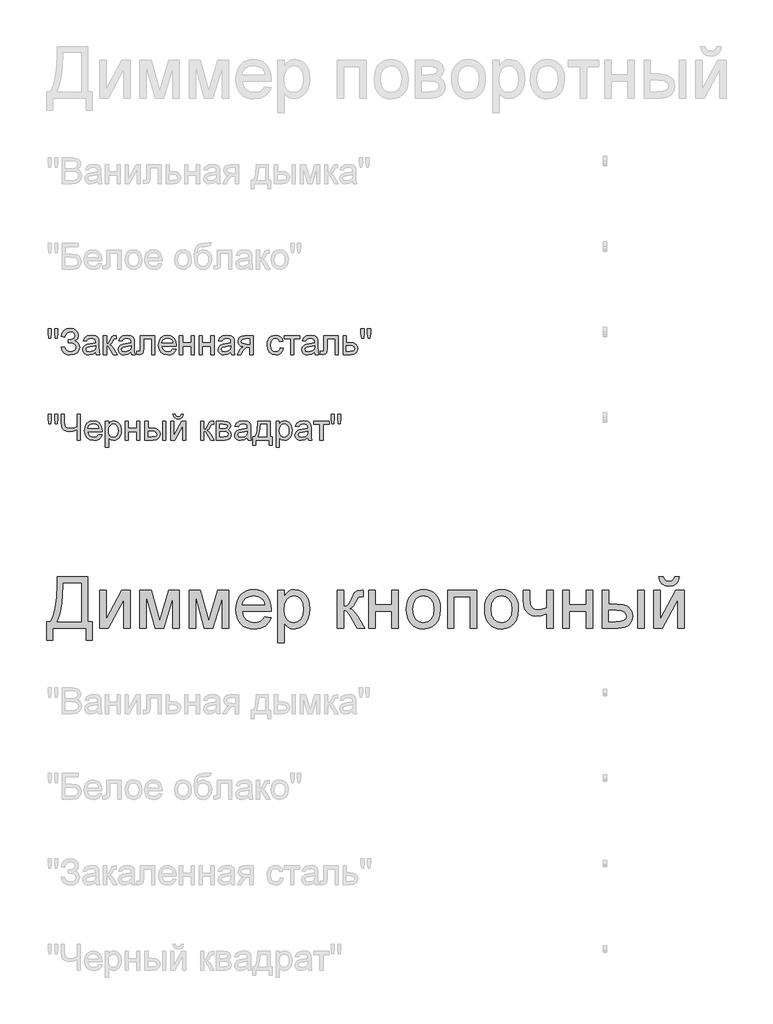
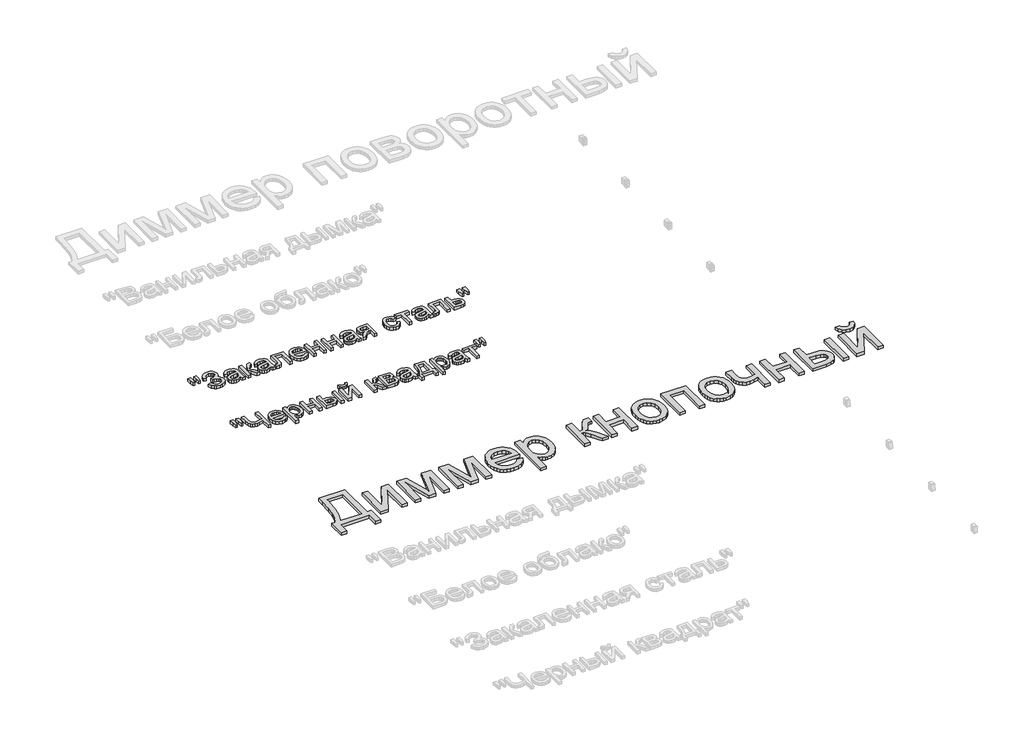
# One storey, part 34 of 168: 3 proxies.
"""IFC4 building model written with IfcOpenShell, lengths in millimetres."""

from ifc_helpers import new_model, si_unit, origin, origin_with_axes, place, context, project, spatial, polyline, outline, extrude, element, save

model = new_model("IFC4")

# Units and contexts
model_context = context("Model", 3, world=origin())
ifc_project = project(units=[si_unit("LENGTHUNIT", "METRE", prefix="MILLI")], contexts=[model_context])

# Site, building, storey
site = spatial("IfcSite", under=ifc_project)
building = spatial("IfcBuilding", under=site)
storey = spatial("IfcBuildingStorey", under=building, Name="Этаж 01", Elevation=0.0)

# Proxies
placement = place(None, origin())
element("IfcBuildingElementProxy", 1, Name="300 мм Arial 2", ObjectType="300 мм Arial 2", at=placement, inside=storey, context=model_context, shape_type="SweptSolid", body=[
    extrude(outline(polyline([(32927.3478389, -46664.4244707), (33106.2856413, -46664.4244707), (33106.2856413, -46928.1222849), (33134.5389786, -46928.1222849), (33134.5389786, -47036.4267443), (33096.8678623, -47036.4267443), (33096.8678623, -46965.7934012), (32903.8033912, -46965.7934012), (32903.8033912, -47036.4267443), (32866.1322749, -47036.4267443), (32866.1322749, -46928.1222849), (32889.6767226, -46928.1222849), (32906.157836, -46893.9506461), (32917.9300598, -46845.8822649), (32924.9933941, -46783.9171413), (32927.3478389, -46708.0552754), (32927.3478389, -46664.4244707)]), holes=[polyline([(33068.614525, -46702.095587), (32965.0189552, -46702.095587), (32965.0189552, -46717.2523252), (32957.3670097, -46820.4800131), (32946.0362442, -46880.1320786), (32927.3478389, -46928.1222849), (33068.614525, -46928.1222849), (33068.614525, -46702.095587)])]), origin_with_axes(), (0.0, 0.0, 1.0), 20.0),
    extrude(outline(polyline([(33176.9189844, -46744.4755929), (33214.5901007, -46744.4755929), (33214.5901007, -46913.2598523), (33307.1492107, -46744.4755929), (33355.8567869, -46744.4755929), (33355.8567869, -46965.7934012), (33318.1856706, -46965.7934012), (33318.1856706, -46798.0392114), (33226.2151718, -46965.7934012), (33176.9189844, -46965.7934012), (33176.9189844, -46744.4755929)])), origin_with_axes(), (0.0, 0.0, 1.0), 20.0),
    extrude(outline(polyline([(33412.3634613, -46744.4755929), (33477.1842689, -46744.4755929), (33527.1426438, -46921.6475618), (33581.0005679, -46744.4755929), (33643.0990487, -46744.4755929), (33643.0990487, -46965.7934012), (33605.4279324, -46965.7934012), (33605.4279324, -46787.5913627), (33551.2757027, -46965.7934012), (33501.8323626, -46965.7934012), (33450.0345776, -46779.0565004), (33450.0345776, -46965.7934012), (33412.3634613, -46965.7934012), (33412.3634613, -46744.4755929)])), origin_with_axes(), (0.0, 0.0, 1.0), 20.0),
    extrude(outline(polyline([(33699.6057232, -46744.4755929), (33764.4265307, -46744.4755929), (33814.3849057, -46921.6475618), (33868.2428298, -46744.4755929), (33930.3413105, -46744.4755929), (33930.3413105, -46965.7934012), (33892.6701942, -46965.7934012), (33892.6701942, -46787.5913627), (33838.5179645, -46965.7934012), (33789.0746244, -46965.7934012), (33737.2768395, -46779.0565004), (33737.2768395, -46965.7934012), (33699.6057232, -46965.7934012), (33699.6057232, -46744.4755929)])), origin_with_axes(), (0.0, 0.0, 1.0), 20.0),
    extrude(outline(polyline([(34141.7998814, -46899.8689477), (34178.7352337, -46904.5778372), (34165.4271025, -46932.4081101), (34144.1911143, -46953.211837), (34115.5055158, -46966.1796773), (34079.8485534, -46970.5022907), (34056.4742511, -46968.6375889), (34035.6475317, -46963.0434833), (34017.368395, -46953.719974), (34001.6368412, -46940.6670609), (33988.9862991, -46924.2480276), (33979.9501976, -46904.8261575), (33974.5285367, -46882.4014507), (33972.7213164, -46856.973907), (33974.5469308, -46830.6841399), (33980.023774, -46807.5121728), (33989.151846, -46787.4580055), (34001.9311468, -46770.5216382), (34017.6213139, -46757.0663542), (34035.4819848, -46747.4554371), (34055.5131594, -46741.6888868), (34077.7148378, -46739.7667034), (34099.2014456, -46741.6842883), (34118.6325127, -46747.437043), (34136.0080392, -46757.0249675), (34151.328025, -46770.4480618), (34163.8337136, -46787.3476409), (34172.7663483, -46807.36502), (34178.1259291, -46830.5001989), (34179.9124561, -46856.7531778), (34179.6917269, -46866.9067209), (34010.3924327, -46866.9067209), (34016.9131411, -46895.1048758), (34032.0606822, -46915.8350262), (34053.9220698, -46928.5821374), (34080.5843174, -46932.8311744), (34100.6338861, -46930.8630057), (34117.5196697, -46924.9584997), (34131.2416681, -46914.7497744), (34141.7998814, -46899.8689477)]), holes=[polyline([(34010.3924327, -46829.2356046), (34142.2413398, -46829.2356046), (34137.1461741, -46809.3331886), (34127.158178, -46795.0961554), (34105.1956228, -46781.8524036), (34077.567685, -46777.4378197), (34052.1746303, -46780.9602898), (34031.1777654, -46791.5277001), (34016.5820473, -46807.9996164), (34010.3924327, -46829.2356046)])]), origin_with_axes(), (0.0, 0.0, 1.0), 20.0),
    extrude(outline(polyline([(34217.5835724, -47050.5534129), (34217.5835724, -46744.4755929), (34255.2546887, -46744.4755929), (34255.2546887, -46781.4109452), (34267.5419473, -46763.1915894), (34281.3007339, -46750.1777638), (34297.3403889, -46742.3694685), (34316.4702527, -46739.7667034), (34341.9460808, -46743.4087351), (34364.2213356, -46754.3348304), (34382.357918, -46771.8828015), (34395.4177288, -46795.390461), (34403.3087976, -46823.1471576), (34405.9391539, -46853.4422399), (34402.9685068, -46885.6595056), (34394.0565655, -46914.4738629), (34379.4884384, -46938.4229807), (34359.5492343, -46956.0445283), (34336.3266834, -46966.8878501), (34311.9085159, -46970.5022907), (34294.590471, -46968.0834666), (34279.1302302, -46960.8269943), (34265.8956754, -46949.8733078), (34255.2546887, -46936.3628416), (34255.2546887, -47050.5534129), (34217.5835724, -47050.5534129)]), holes=[polyline([(34255.2546887, -46856.9003306), (34259.3289818, -46890.6718978), (34271.5518611, -46914.2899219), (34289.5872759, -46928.1958613), (34311.0991755, -46932.8311744), (34332.9605631, -46928.0303144), (34351.4558304, -46913.6277343), (34364.0649858, -46889.1451875), (34368.2680376, -46854.1044275), (34364.1661533, -46820.5168013), (34351.8605006, -46796.5676834), (34333.8526769, -46782.2202856), (34312.6442799, -46777.4378197), (34291.3531095, -46782.5237882), (34272.655507, -46797.781694), (34259.6048933, -46822.7332903), (34255.2546887, -46856.9003306)])]), origin_with_axes(), (0.0, 0.0, 1.0), 20.0),
    extrude(outline(polyline([(34566.0413982, -46744.4755929), (34603.7125145, -46744.4755929), (34603.7125145, -46838.6533837), (34619.0347996, -46836.9611265), (34628.9492194, -46831.8843549), (34637.723205, -46818.6406031), (34649.6241875, -46792.4474051), (34666.8042767, -46758.4183205), (34681.9610149, -46747.3450725), (34709.5153763, -46744.4755929), (34716.7258634, -46744.4755929), (34716.7258634, -46782.3674384), (34706.5723204, -46782.1467092), (34688.1782206, -46786.1198347), (34675.2287744, -46810.9150812), (34660.035248, -46837.7336787), (34638.7348804, -46850.8670659), (34650.6726512, -46856.1691652), (34662.5000573, -46865.5271634), (34685.8237758, -46896.4108569), (34726.1436425, -46965.7934012), (34683.3221783, -46965.7934012), (34643.811652, -46897.8823849), (34623.9460242, -46869.1508011), (34614.6570039, -46863.9360738), (34603.7125145, -46862.1978313), (34603.7125145, -46965.7934012), (34566.0413982, -46965.7934012), (34566.0413982, -46744.4755929)])), origin_with_axes(), (0.0, 0.0, 1.0), 20.0),
    extrude(outline(polyline([(34749.6880902, -46744.4755929), (34787.3592065, -46744.4755929), (34787.3592065, -46829.2356046), (34886.2458868, -46829.2356046), (34886.2458868, -46744.4755929), (34923.9170031, -46744.4755929), (34923.9170031, -46965.7934012), (34886.2458868, -46965.7934012), (34886.2458868, -46866.9067209), (34787.3592065, -46866.9067209), (34787.3592065, -46965.7934012), (34749.6880902, -46965.7934012), (34749.6880902, -46744.4755929)])), origin_with_axes(), (0.0, 0.0, 1.0), 20.0),
    extrude(outline(polyline([(34971.0058985, -46855.134497), (34973.043045, -46826.4718911), (34979.1544847, -46801.7732136), (34989.3402174, -46781.0384647), (35003.6002433, -46764.2676442), (35017.9568381, -46753.5484826), (35033.8033551, -46745.8919386), (35051.1397941, -46741.2980122), (35069.9661552, -46739.7667034), (35090.7491887, -46741.6314052), (35109.5410608, -46747.2255108), (35126.3417717, -46756.5490201), (35141.1513213, -46769.6019332), (35153.2385441, -46785.9427915), (35161.8722746, -46805.1301368), (35167.052513, -46827.1639691), (35168.7792591, -46852.0442883), (35165.7258385, -46890.1016807), (35156.5655769, -46919.0723878), (35141.5651885, -46940.7682285), (35120.9913879, -46957.0010215), (35096.5548264, -46967.1269734), (35069.9661552, -46970.5022907), (35048.8796191, -46968.6444867), (35029.913003, -46963.0710744), (35013.0663069, -46953.782054), (34998.3395307, -46940.7774255), (34986.3810666, -46924.277918), (34977.8393066, -46904.5042608), (34972.7142505, -46881.4564538), (34971.0058985, -46855.134497)]), holes=[polyline([(35008.6770148, -46855.0609206), (35013.0364164, -46889.1543845), (35026.1146214, -46913.4437933), (35045.7963081, -46927.9843291), (35069.9661552, -46932.8311744), (35094.0256377, -46927.956738), (35113.6705362, -46913.3334287), (35126.7487412, -46888.7221232), (35131.1081428, -46853.8836983), (35126.72115, -46820.7835157), (35113.5601716, -46796.8252008), (35093.8876819, -46782.2846649), (35069.9661552, -46777.4378197), (35045.7963081, -46782.2662708), (35026.1146214, -46796.7516244), (35013.0364164, -46820.9858508), (35008.6770148, -46855.0609206)])]), origin_with_axes(), (0.0, 0.0, 1.0), 20.0),
    extrude(outline(polyline([(35211.1592649, -46744.4755929), (35380.6792883, -46744.4755929), (35380.6792883, -46965.7934012), (35343.008172, -46965.7934012), (35343.008172, -46782.1467092), (35248.8303813, -46782.1467092), (35248.8303813, -46965.7934012), (35211.1592649, -46965.7934012), (35211.1592649, -46744.4755929)])), origin_with_axes(), (0.0, 0.0, 1.0), 20.0),
    extrude(outline(polyline([(35427.7681837, -46855.134497), (35429.8053303, -46826.4718911), (35435.9167699, -46801.7732136), (35446.1025026, -46781.0384647), (35460.3625285, -46764.2676442), (35474.7191233, -46753.5484826), (35490.5656403, -46745.8919386), (35507.9020793, -46741.2980122), (35526.7284404, -46739.7667034), (35547.5114739, -46741.6314052), (35566.303346, -46747.2255108), (35583.1040569, -46756.5490201), (35597.9136065, -46769.6019332), (35610.0008293, -46785.9427915), (35618.6345599, -46805.1301368), (35623.8147982, -46827.1639691), (35625.5415443, -46852.0442883), (35622.4881238, -46890.1016807), (35613.3278621, -46919.0723878), (35598.3274737, -46940.7682285), (35577.7536731, -46957.0010215), (35553.3171116, -46967.1269734), (35526.7284404, -46970.5022907), (35505.6419043, -46968.6444867), (35486.6752882, -46963.0710744), (35469.8285921, -46953.782054), (35455.1018159, -46940.7774255), (35443.1433518, -46924.277918), (35434.6015918, -46904.5042608), (35429.4765357, -46881.4564538), (35427.7681837, -46855.134497)]), holes=[polyline([(35465.4393, -46855.0609206), (35469.7987017, -46889.1543845), (35482.8769066, -46913.4437933), (35502.5585933, -46927.9843291), (35526.7284404, -46932.8311744), (35550.7879229, -46927.956738), (35570.4328214, -46913.3334287), (35583.5110264, -46888.7221232), (35587.870428, -46853.8836983), (35583.4834352, -46820.7835157), (35570.3224568, -46796.8252008), (35550.6499671, -46782.2846649), (35526.7284404, -46777.4378197), (35502.5585933, -46782.2662708), (35482.8769066, -46796.7516244), (35469.7987017, -46820.9858508), (35465.4393, -46855.0609206)])]), origin_with_axes(), (0.0, 0.0, 1.0), 20.0),
    extrude(outline(polyline([(35653.7948815, -46744.4755929), (35691.4659978, -46744.4755929), (35691.4659978, -46786.9291751), (35694.5194184, -46826.734007), (35699.7157516, -46838.3038958), (35709.19791, -46848.2918919), (35722.294509, -46855.1896793), (35738.334164, -46857.4889418), (35761.381971, -46854.6378563), (35790.3526782, -46846.0846), (35790.3526782, -46744.4755929), (35828.0237945, -46744.4755929), (35828.0237945, -46965.7934012), (35790.3526782, -46965.7934012), (35790.3526782, -46882.2106119), (35758.1997918, -46891.9226966), (35728.2541974, -46895.1600581), (35705.4731048, -46891.7847408), (35685.5430977, -46881.6587889), (35670.0092805, -46866.6400064), (35660.4167575, -46848.5861975), (35655.4503505, -46828.0399881), (35653.7948815, -46805.5440041), (35653.7948815, -46744.4755929)])), origin_with_axes(), (0.0, 0.0, 1.0), 20.0),
    extrude(outline(polyline([(35884.5304689, -46744.4755929), (35922.2015852, -46744.4755929), (35922.2015852, -46829.2356046), (36021.0882655, -46829.2356046), (36021.0882655, -46744.4755929), (36058.7593818, -46744.4755929), (36058.7593818, -46965.7934012), (36021.0882655, -46965.7934012), (36021.0882655, -46866.9067209), (35922.2015852, -46866.9067209), (35922.2015852, -46965.7934012), (35884.5304689, -46965.7934012), (35884.5304689, -46744.4755929)])), origin_with_axes(), (0.0, 0.0, 1.0), 20.0),
    extrude(outline(polyline([(36322.457196, -46744.4755929), (36360.1283123, -46744.4755929), (36360.1283123, -46965.7934012), (36322.457196, -46965.7934012), (36322.457196, -46744.4755929)])), origin_with_axes(), (0.0, 0.0, 1.0), 20.0),
    extrude(outline(polyline([(36115.2660563, -46744.4755929), (36152.9371726, -46744.4755929), (36152.9371726, -46824.526715), (36199.5110332, -46824.526715), (36239.7665205, -46829.2448016), (36255.9832187, -46835.1424099), (36269.5925533, -46843.3990614), (36280.3599994, -46853.7296477), (36288.0510324, -46865.8490602), (36292.6656522, -46879.7572988), (36294.2038587, -46895.4543637), (36289.0443138, -46922.4109169), (36273.5656788, -46945.1552213), (36261.7037837, -46954.184425), (36246.7562784, -46960.6338562), (36207.6044371, -46965.7934012), (36115.2660563, -46965.7934012), (36115.2660563, -46744.4755929)]), holes=[polyline([(36152.9371726, -46928.1222849), (36191.6383585, -46928.1222849), (36221.6391352, -46926.1449192), (36241.5967334, -46920.212822), (36252.7987402, -46910.0868701), (36256.5327424, -46895.5279401), (36253.7644304, -46883.2222874), (36245.4594944, -46872.3513744), (36227.6999911, -46864.7362171), (36196.5679772, -46862.1978313), (36152.9371726, -46862.1978313), (36152.9371726, -46928.1222849)])]), origin_with_axes(), (0.0, 0.0, 1.0), 20.0),
    extrude(outline(polyline([(36416.6349867, -46744.4755929), (36454.306103, -46744.4755929), (36454.306103, -46913.2598523), (36546.865213, -46744.4755929), (36595.5727892, -46744.4755929), (36595.5727892, -46965.7934012), (36557.9016729, -46965.7934012), (36557.9016729, -46798.0392114), (36465.9311741, -46965.7934012), (36416.6349867, -46965.7934012), (36416.6349867, -46744.4755929)])), origin_with_axes(), (0.0, 0.0, 1.0), 20.0),
    extrude(outline(polyline([(36539.0661147, -46664.4244707), (36567.319452, -46664.4244707), (36561.240202, -46688.5483326), (36549.0357168, -46706.32623), (36531.2578194, -46717.2799164), (36508.4583327, -46720.9311452), (36483.7182686, -46717.3075075), (36464.5332225, -46706.4365946), (36451.4182294, -46688.6862883), (36444.888324, -46664.4244707), (36473.1416612, -46664.4244707), (36477.1147867, -46676.831291), (36483.7366627, -46685.6512619), (36493.0440771, -46690.9211714), (36505.0738184, -46692.677808), (36518.648664, -46690.9763537), (36528.4711133, -46685.8719911), (36535.0929892, -46677.1072025), (36539.0661147, -46664.4244707)])), origin_with_axes(), (0.0, 0.0, 1.0), 20.0),
])
element("IfcBuildingElementProxy", 2, Name="150", ObjectType="150", at=placement, inside=storey, context=model_context, shape_type="SweptSolid", body=[
    extrude(outline(polyline([(32880.1485789, -45269.2611657), (32875.550054, -45240.1616998), (32875.550054, -45215.108936), (32894.3856121, -45215.108936), (32894.3856121, -45240.1616998), (32890.2653338, -45269.2611657), (32880.1485789, -45269.2611657)])), origin_with_axes(), (0.0, 0.0, 1.0), 20.0),
    extrude(outline(polyline([(32917.7093306, -45269.2611657), (32913.2211703, -45240.1616998), (32913.2211703, -45215.108936), (32932.0567284, -45215.108936), (32932.0567284, -45240.1616998), (32927.6421445, -45269.2611657), (32917.7093306, -45269.2611657)])), origin_with_axes(), (0.0, 0.0, 1.0), 20.0),
    extrude(outline(polyline([(32950.8922866, -45323.4133953), (32969.7278447, -45318.7045058), (32981.2977335, -45339.1035624), (32992.2284273, -45346.7601065), (33006.2217387, -45349.3122878), (33020.398991, -45347.3947029), (33031.2193202, -45341.6419482), (33038.0757209, -45333.1760638), (33040.3611878, -45323.1190897), (33037.8641888, -45312.5838691), (33030.3731916, -45304.4490785), (33018.5779752, -45299.2481468), (33003.1683181, -45297.5145029), (32993.2722924, -45297.5145029), (32993.2722924, -45278.6789447), (33014.591054, -45277.1522345), (33027.6324708, -45269.3531362), (33033.2978535, -45255.0977088), (33031.4124583, -45246.2271542), (33025.7562726, -45238.5982014), (33016.8811195, -45233.3420874), (33005.3388219, -45231.5900493), (32986.1169876, -45236.9795206), (32975.117316, -45251.2717361), (32972.0822895, -45264.5522761), (32953.2467313, -45259.8433866), (32959.0983543, -45239.2419948), (32969.7002536, -45224.526715), (32985.0524291, -45215.6975472), (33005.1548809, -45212.7544912), (33024.5468605, -45215.8125103), (33039.4598769, -45224.9865675), (33048.965028, -45238.253312), (33052.1334117, -45253.5893927), (33047.2037929, -45272.2318128), (33032.4149367, -45286.1469492), (33042.8903765, -45290.9708019), (33051.5080123, -45299.1147896), (33057.2745625, -45309.8799364), (33059.196746, -45322.5672668), (33055.508729, -45340.404945), (33044.444678, -45355.069641), (33027.2921799, -45364.8782947), (33005.3388219, -45368.147846), (32986.2365493, -45365.3519428), (32970.7947025, -45356.9642333), (32959.0132816, -45342.9847175), (32950.8922866, -45323.4133953)])), origin_with_axes(), (0.0, 0.0, 1.0), 20.0),
    extrude(outline(polyline([(33153.3745367, -45351.6667326), (33135.1091957, -45364.4322378), (33114.9308682, -45368.147846), (33099.1901174, -45365.9129628), (33087.5788419, -45359.2083135), (33080.4189386, -45349.0271793), (33078.0323041, -45336.3628416), (33081.6375477, -45321.4636208), (33091.110509, -45310.6478901), (33104.2990786, -45304.4674726), (33120.596251, -45301.6347812), (33153.2641721, -45295.1600581), (33153.3745367, -45290.9662034), (33152.0777527, -45282.5600998), (33148.1874006, -45277.060264), (33139.4869914, -45272.9767738), (33127.3652797, -45271.6156104), (33108.3089923, -45275.2392481), (33099.222307, -45288.0967238), (33080.3867489, -45285.742279), (33088.5353351, -45267.3481793), (33104.9428721, -45256.5692368), (33129.7933008, -45252.7800523), (33152.6203786, -45256.1277784), (33165.5146426, -45264.533882), (33171.2903899, -45277.3177814), (33172.2100949, -45293.7988947), (33172.2100949, -45317.2329778), (33173.1665881, -45349.9560813), (33176.9189844, -45365.7934012), (33158.0834263, -45365.7934012), (33153.3745367, -45351.6667326)]), holes=[polyline([(33153.3745367, -45313.9956163), (33122.9874839, -45319.7713636), (33106.782282, -45322.8247842), (33099.4430362, -45327.7911911), (33096.8678623, -45335.0384664), (33102.4780627, -45345.2287977), (33118.940782, -45349.3122878), (33137.9970693, -45344.8057334), (33150.284328, -45333.8980322), (33153.2641721, -45319.3299052), (33153.3745367, -45313.9956163)])]), origin_with_axes(), (0.0, 0.0, 1.0), 20.0),
    extrude(outline(polyline([(33198.1089873, -45255.134497), (33216.9445455, -45255.134497), (33216.9445455, -45302.2233924), (33229.5628979, -45298.8388781), (33239.900382, -45279.1204031), (33248.4904266, -45262.1058608), (33256.0687957, -45256.5692368), (33269.8459764, -45255.134497), (33273.4512199, -45255.134497), (33273.4512199, -45274.0804198), (33268.3744484, -45273.9700552), (33259.1773985, -45275.956618), (33252.7026754, -45288.3542412), (33245.1059122, -45301.7635399), (33234.4557285, -45308.3302335), (33246.3383169, -45315.6602823), (33258.0001762, -45331.102129), (33278.1601095, -45365.7934012), (33256.7493774, -45365.7934012), (33236.9941142, -45331.837893), (33227.0613004, -45317.4721011), (33216.9445455, -45313.9956163), (33216.9445455, -45365.7934012), (33198.1089873, -45365.7934012), (33198.1089873, -45255.134497)])), origin_with_axes(), (0.0, 0.0, 1.0), 20.0),
    extrude(outline(polyline([(33360.5656764, -45351.6667326), (33342.3003353, -45364.4322378), (33322.1220079, -45368.147846), (33306.381257, -45365.9129628), (33294.7699816, -45359.2083135), (33287.6100782, -45349.0271793), (33285.2234438, -45336.3628416), (33288.8286873, -45321.4636208), (33298.3016487, -45310.6478901), (33311.4902183, -45304.4674726), (33327.7873906, -45301.6347812), (33360.4553118, -45295.1600581), (33360.5656764, -45290.9662034), (33359.2688924, -45282.5600998), (33355.3785403, -45277.060264), (33346.6781311, -45272.9767738), (33334.5564193, -45271.6156104), (33315.500132, -45275.2392481), (33306.4134467, -45288.0967238), (33287.5778886, -45285.742279), (33295.7264748, -45267.3481793), (33312.1340117, -45256.5692368), (33336.9844405, -45252.7800523), (33359.8115183, -45256.1277784), (33372.7057822, -45264.533882), (33378.4815296, -45277.3177814), (33379.4012346, -45293.7988947), (33379.4012346, -45317.2329778), (33380.3577277, -45349.9560813), (33384.1101241, -45365.7934012), (33365.2745659, -45365.7934012), (33360.5656764, -45351.6667326)]), holes=[polyline([(33360.5656764, -45313.9956163), (33330.1786236, -45319.7713636), (33313.9734217, -45322.8247842), (33306.6341759, -45327.7911911), (33304.0590019, -45335.0384664), (33309.6692024, -45345.2287977), (33326.1319217, -45349.3122878), (33345.188209, -45344.8057334), (33357.4754676, -45333.8980322), (33360.4553118, -45319.3299052), (33360.5656764, -45313.9956163)])]), origin_with_axes(), (0.0, 0.0, 1.0), 20.0),
    extrude(outline(polyline([(33414.7179061, -45255.134497), (33499.4779178, -45255.134497), (33499.4779178, -45365.6830366), (33480.6423596, -45365.6830366), (33480.6423596, -45273.9700552), (33433.5534643, -45273.9700552), (33433.5534643, -45326.7611215), (33432.2842714, -45351.1149096), (33425.3129076, -45361.3972113), (33408.8317942, -45365.7934012), (33393.5279032, -45364.836908), (33393.5279032, -45346.957843), (33401.9524009, -45346.957843), (33410.4688691, -45345.7990148), (33413.8717775, -45342.1201948), (33414.7179061, -45325.6942637), (33414.7179061, -45255.134497)])), origin_with_axes(), (0.0, 0.0, 1.0), 20.0),
    extrude(outline(polyline([(33605.2072032, -45332.8311744), (33623.6748794, -45335.1856192), (33617.0208138, -45349.1007557), (33606.4028197, -45359.5026191), (33592.0600204, -45365.9865392), (33574.2315392, -45368.147846), (33552.1310283, -45364.4184422), (33535.1256831, -45353.2302311), (33524.2823613, -45335.3097794), (33520.6679207, -45311.3836541), (33524.3191495, -45286.652787), (33535.2728359, -45268.1575197), (33552.0482549, -45256.6244191), (33573.1646814, -45252.7800523), (33593.6235189, -45256.6152221), (33609.971275, -45268.1207315), (33620.6904367, -45286.5792106), (33624.2634906, -45311.2732895), (33624.153126, -45316.350061), (33539.5034789, -45316.350061), (33542.763833, -45330.4491385), (33550.3376036, -45340.8142137), (33561.2682974, -45347.1877693), (33574.5994212, -45349.3122878), (33593.0670974, -45345.3759505), (33605.2072032, -45332.8311744)]), holes=[polyline([(33539.5034789, -45297.5145029), (33605.4279324, -45297.5145029), (33602.8803496, -45287.5632949), (33597.8863515, -45280.4447783), (33586.9050739, -45273.8229024), (33573.091105, -45271.6156104), (33560.3945777, -45273.3768455), (33549.8961452, -45278.6605506), (33542.5982861, -45286.8965088), (33539.5034789, -45297.5145029)])]), origin_with_axes(), (0.0, 0.0, 1.0), 20.0),
    extrude(outline(polyline([(33643.0990487, -45255.134497), (33661.9346069, -45255.134497), (33661.9346069, -45297.5145029), (33711.377947, -45297.5145029), (33711.377947, -45255.134497), (33730.2135052, -45255.134497), (33730.2135052, -45365.7934012), (33711.377947, -45365.7934012), (33711.377947, -45316.350061), (33661.9346069, -45316.350061), (33661.9346069, -45365.7934012), (33643.0990487, -45365.7934012), (33643.0990487, -45255.134497)])), origin_with_axes(), (0.0, 0.0, 1.0), 20.0),
    extrude(outline(polyline([(33758.4668424, -45255.134497), (33777.3024005, -45255.134497), (33777.3024005, -45297.5145029), (33826.7457407, -45297.5145029), (33826.7457407, -45255.134497), (33845.5812988, -45255.134497), (33845.5812988, -45365.7934012), (33826.7457407, -45365.7934012), (33826.7457407, -45316.350061), (33777.3024005, -45316.350061), (33777.3024005, -45365.7934012), (33758.4668424, -45365.7934012), (33758.4668424, -45255.134497)])), origin_with_axes(), (0.0, 0.0, 1.0), 20.0),
    extrude(outline(polyline([(33944.4679792, -45351.6667326), (33926.2026381, -45364.4322378), (33906.0243107, -45368.147846), (33890.2835598, -45365.9129628), (33878.6722843, -45359.2083135), (33871.512381, -45349.0271793), (33869.1257465, -45336.3628416), (33872.7309901, -45321.4636208), (33882.2039515, -45310.6478901), (33895.392521, -45304.4674726), (33911.6896934, -45301.6347812), (33944.3576146, -45295.1600581), (33944.4679792, -45290.9662034), (33943.1711951, -45282.5600998), (33939.280843, -45277.060264), (33930.5804338, -45272.9767738), (33918.4587221, -45271.6156104), (33899.4024347, -45275.2392481), (33890.3157495, -45288.0967238), (33871.4801913, -45285.742279), (33879.6287775, -45267.3481793), (33896.0363145, -45256.5692368), (33920.8867433, -45252.7800523), (33943.7138211, -45256.1277784), (33956.608085, -45264.533882), (33962.3838323, -45277.3177814), (33963.3035373, -45293.7988947), (33963.3035373, -45317.2329778), (33964.2600305, -45349.9560813), (33968.0124268, -45365.7934012), (33949.1768687, -45365.7934012), (33944.4679792, -45351.6667326)]), holes=[polyline([(33944.4679792, -45313.9956163), (33914.0809264, -45319.7713636), (33897.8757245, -45322.8247842), (33890.5364787, -45327.7911911), (33887.9613047, -45335.0384664), (33893.5715051, -45345.2287977), (33910.0342244, -45349.3122878), (33929.0905118, -45344.8057334), (33941.3777704, -45333.8980322), (33944.3576146, -45319.3299052), (33944.4679792, -45313.9956163)])]), origin_with_axes(), (0.0, 0.0, 1.0), 20.0),
    extrude(outline(polyline([(34073.9624415, -45255.134497), (34073.9624415, -45365.7934012), (34055.1268833, -45365.7934012), (34055.1268833, -45323.4133953), (34044.8629756, -45323.4133953), (34030.8834598, -45325.8046283), (34017.7500726, -45341.8810715), (34002.7404872, -45365.7934012), (33980.9618731, -45365.7934012), (33999.8710076, -45335.5535012), (34008.2219289, -45324.7009823), (34015.9106626, -45319.8817282), (34003.0347928, -45315.9361938), (33993.9848957, -45308.4405981), (33988.6322127, -45298.4709961), (33986.847985, -45287.1034424), (33989.2852032, -45274.2091785), (33996.5968579, -45264.0004531), (34008.5254316, -45257.3509861), (34024.8134069, -45255.134497), (34073.9624415, -45255.134497)]), holes=[polyline([(34055.1268833, -45273.9700552), (34030.2948486, -45273.9700552), (34017.4695626, -45275.0599056), (34010.1900976, -45278.3294568), (34005.6835431, -45288.5381822), (34007.3436107, -45295.7164796), (34012.3238132, -45300.6966821), (34035.8498668, -45304.5778372), (34055.1268833, -45304.5778372), (34055.1268833, -45273.9700552)])]), origin_with_axes(), (0.0, 0.0, 1.0), 20.0),
    extrude(outline(polyline([(34231.710241, -45325.7678401), (34250.5457991, -45328.1222849), (34245.2942837, -45344.8747112), (34235.4258491, -45357.5344504), (34221.8693976, -45365.4944971), (34205.5538311, -45368.147846), (34185.518058, -45364.4460334), (34169.8508835, -45353.3405957), (34159.7387272, -45335.3189764), (34156.3680084, -45310.8686193), (34157.8073467, -45294.1069959), (34162.1253616, -45279.5802556), (34169.391031, -45267.8494185), (34179.6733328, -45259.4755046), (34191.974387, -45254.4539153), (34205.2963137, -45252.7800523), (34221.2118085, -45255.0793147), (34233.9359271, -45261.9771022), (34243.0639991, -45273.1055325), (34248.1913544, -45288.0967238), (34229.3557962, -45290.4511686), (34220.6185988, -45276.3428941), (34205.4434665, -45271.6156104), (34193.271171, -45273.942464), (34183.6096701, -45280.9230249), (34177.3050924, -45292.934372), (34175.2035665, -45310.3535845), (34177.2591072, -45328.0073218), (34183.4257291, -45340.0600556), (34192.9124861, -45346.9992298), (34204.9284317, -45349.3122878), (34214.6819031, -45347.868351), (34222.678738, -45343.5365405), (34228.4958721, -45336.2064917), (34231.710241, -45325.7678401)])), origin_with_axes(), (0.0, 0.0, 1.0), 20.0),
    extrude(outline(polyline([(34257.6091334, -45255.134497), (34347.0780347, -45255.134497), (34347.0780347, -45273.9700552), (34311.7613631, -45273.9700552), (34311.7613631, -45365.7934012), (34292.925805, -45365.7934012), (34292.925805, -45273.9700552), (34257.6091334, -45273.9700552), (34257.6091334, -45255.134497)])), origin_with_axes(), (0.0, 0.0, 1.0), 20.0),
    extrude(outline(polyline([(34434.1924911, -45351.6667326), (34415.9271501, -45364.4322378), (34395.7488226, -45368.147846), (34380.0080718, -45365.9129628), (34368.3967963, -45359.2083135), (34361.236893, -45349.0271793), (34358.8502585, -45336.3628416), (34362.4555021, -45321.4636208), (34371.9284634, -45310.6478901), (34385.117033, -45304.4674726), (34401.4142054, -45301.6347812), (34434.0821265, -45295.1600581), (34434.1924911, -45290.9662034), (34432.8957071, -45282.5600998), (34429.005355, -45277.060264), (34420.3049458, -45272.9767738), (34408.1832341, -45271.6156104), (34389.1269467, -45275.2392481), (34380.0402614, -45288.0967238), (34361.2047033, -45285.742279), (34369.3532895, -45267.3481793), (34385.7608265, -45256.5692368), (34410.6112552, -45252.7800523), (34433.438333, -45256.1277784), (34446.332597, -45264.533882), (34452.1083443, -45277.3177814), (34453.0280493, -45293.7988947), (34453.0280493, -45317.2329778), (34453.9845425, -45349.9560813), (34457.7369388, -45365.7934012), (34438.9013807, -45365.7934012), (34434.1924911, -45351.6667326)]), holes=[polyline([(34434.1924911, -45313.9956163), (34403.8054383, -45319.7713636), (34387.6002364, -45322.8247842), (34380.2609906, -45327.7911911), (34377.6858167, -45335.0384664), (34383.2960171, -45345.2287977), (34399.7587364, -45349.3122878), (34418.8150237, -45344.8057334), (34431.1022824, -45333.8980322), (34434.0821265, -45319.3299052), (34434.1924911, -45313.9956163)])]), origin_with_axes(), (0.0, 0.0, 1.0), 20.0),
    extrude(outline(polyline([(34488.3447208, -45255.134497), (34573.1047325, -45255.134497), (34573.1047325, -45365.6830366), (34554.2691744, -45365.6830366), (34554.2691744, -45273.9700552), (34507.180279, -45273.9700552), (34507.180279, -45326.7611215), (34505.9110861, -45351.1149096), (34498.9397223, -45361.3972113), (34482.4586089, -45365.7934012), (34467.1547179, -45364.836908), (34467.1547179, -45346.957843), (34475.5792156, -45346.957843), (34484.0956838, -45345.7990148), (34487.4985922, -45342.1201948), (34488.3447208, -45325.6942637), (34488.3447208, -45255.134497)])), origin_with_axes(), (0.0, 0.0, 1.0), 20.0),
    extrude(outline(polyline([(34601.3580697, -45255.134497), (34620.1936279, -45255.134497), (34620.1936279, -45295.1600581), (34641.8986656, -45295.1600581), (34660.7158297, -45297.5191014), (34674.6401632, -45304.5962313), (34683.2486019, -45315.8212307), (34686.1180814, -45330.6238825), (34683.6762647, -45344.102159), (34676.3508145, -45355.4743112), (34663.6542871, -45363.2136287), (34645.099239, -45365.7934012), (34601.3580697, -45365.7934012), (34601.3580697, -45255.134497)]), holes=[polyline([(34620.1936279, -45346.957843), (34637.7783873, -45346.957843), (34660.4951005, -45343.0031116), (34665.5856676, -45337.9401356), (34667.2825233, -45330.6606707), (34662.260934, -45319.0723878), (34654.1905228, -45315.2648092), (34640.0224674, -45313.9956163), (34620.1936279, -45313.9956163), (34620.1936279, -45346.957843)])]), origin_with_axes(), (0.0, 0.0, 1.0), 20.0),
    extrude(outline(polyline([(34709.5521645, -45269.2611657), (34704.9536396, -45240.1616998), (34704.9536396, -45215.108936), (34723.7891977, -45215.108936), (34723.7891977, -45240.1616998), (34719.6689194, -45269.2611657), (34709.5521645, -45269.2611657)])), origin_with_axes(), (0.0, 0.0, 1.0), 20.0),
    extrude(outline(polyline([(34747.1129162, -45269.2611657), (34742.6247559, -45240.1616998), (34742.6247559, -45215.108936), (34761.460314, -45215.108936), (34761.460314, -45240.1616998), (34757.0457301, -45269.2611657), (34747.1129162, -45269.2611657)])), origin_with_axes(), (0.0, 0.0, 1.0), 20.0),
])
element("IfcBuildingElementProxy", 3, Name="150", ObjectType="150", at=placement, inside=storey, context=model_context, shape_type="SweptSolid", body=[
    extrude(outline(polyline([(32880.1485789, -45769.2611657), (32875.550054, -45740.1616998), (32875.550054, -45715.108936), (32894.3856121, -45715.108936), (32894.3856121, -45740.1616998), (32890.2653338, -45769.2611657), (32880.1485789, -45769.2611657)])), origin_with_axes(), (0.0, 0.0, 1.0), 20.0),
    extrude(outline(polyline([(32917.7093306, -45769.2611657), (32913.2211703, -45740.1616998), (32913.2211703, -45715.108936), (32932.0567284, -45715.108936), (32932.0567284, -45740.1616998), (32927.6421445, -45769.2611657), (32917.7093306, -45769.2611657)])), origin_with_axes(), (0.0, 0.0, 1.0), 20.0),
    extrude(outline(polyline([(33063.9056355, -45865.7934012), (33045.0700773, -45865.7934012), (33045.0700773, -45805.460754), (33020.0908899, -45813.6277343), (32998.4226404, -45816.350061), (32983.7395502, -45814.4876584), (32970.886673, -45808.9004506), (32960.926268, -45800.4483618), (32954.9205944, -45789.9913161), (32950.8922866, -45759.9905394), (32950.8922866, -45715.108936), (32969.7278447, -45715.108936), (32969.7278447, -45757.4521536), (32971.990319, -45777.8190206), (32978.7777418, -45789.7705869), (32988.7381468, -45795.5785239), (33000.5195677, -45797.5145029), (33022.2521966, -45795.1784522), (33045.0700773, -45788.1703002), (33045.0700773, -45715.108936), (33063.9056355, -45715.108936), (33063.9056355, -45865.7934012)])), origin_with_axes(), (0.0, 0.0, 1.0), 20.0),
    extrude(outline(polyline([(33171.9893657, -45832.8311744), (33190.4570418, -45835.1856192), (33183.8029763, -45849.1007557), (33173.1849822, -45859.5026191), (33158.8421829, -45865.9865392), (33141.0137017, -45868.147846), (33118.9131908, -45864.4184422), (33101.9078456, -45853.2302311), (33091.0645238, -45835.3097794), (33087.4500832, -45811.3836541), (33091.101312, -45786.652787), (33102.0549984, -45768.1575197), (33118.8304174, -45756.6244191), (33139.9468439, -45752.7800523), (33160.4056814, -45756.6152221), (33176.7534375, -45768.1207315), (33187.4725992, -45786.5792106), (33191.045653, -45811.2732895), (33190.9352884, -45816.350061), (33106.2856413, -45816.350061), (33109.5459955, -45830.4491385), (33117.1197661, -45840.8142137), (33128.0504599, -45847.1877693), (33141.3815837, -45849.3122878), (33159.8492598, -45845.3759505), (33171.9893657, -45832.8311744)]), holes=[polyline([(33106.2856413, -45797.5145029), (33172.2100949, -45797.5145029), (33169.6625121, -45787.5632949), (33164.668514, -45780.4447783), (33153.6872364, -45773.8229024), (33139.8732675, -45771.6156104), (33127.1767401, -45773.3768455), (33116.6783077, -45778.6605506), (33109.3804486, -45786.8965088), (33106.2856413, -45797.5145029)])]), origin_with_axes(), (0.0, 0.0, 1.0), 20.0),
    extrude(outline(polyline([(33209.8812112, -45908.173407), (33209.8812112, -45755.134497), (33228.7167693, -45755.134497), (33228.7167693, -45773.6021732), (33241.739792, -45757.9855825), (33259.3245513, -45752.7800523), (33272.0624654, -45754.6010681), (33283.2000928, -45760.0641158), (33292.268384, -45768.8381014), (33298.7982894, -45780.5919311), (33304.0590019, -45809.6178205), (33302.5736784, -45825.7264534), (33298.1177077, -45840.133632), (33290.8336442, -45852.108191), (33280.8640422, -45860.9189648), (33269.2527667, -45866.3406257), (33257.043683, -45868.147846), (33240.6545401, -45863.3101977), (33228.7167693, -45851.0781214), (33228.7167693, -45908.173407), (33209.8812112, -45908.173407)]), holes=[polyline([(33228.7167693, -45811.3468659), (33230.7539159, -45828.2326495), (33236.8653555, -45840.0416615), (33245.8830629, -45846.9946312), (33256.6390128, -45849.3122878), (33267.5697066, -45846.9118578), (33276.8173402, -45839.7105677), (33283.1219179, -45827.4692943), (33285.2234438, -45809.9489143), (33283.1725017, -45793.1551012), (33277.0196753, -45781.1805423), (33268.0157635, -45774.0068434), (33257.411565, -45771.6156104), (33246.7659797, -45774.1585947), (33237.4171785, -45781.7875476), (33230.8918716, -45794.2633458), (33228.7167693, -45811.3468659)])]), origin_with_axes(), (0.0, 0.0, 1.0), 20.0),
    extrude(outline(polyline([(33325.2490049, -45755.134497), (33344.084563, -45755.134497), (33344.084563, -45797.5145029), (33393.5279032, -45797.5145029), (33393.5279032, -45755.134497), (33412.3634613, -45755.134497), (33412.3634613, -45865.7934012), (33393.5279032, -45865.7934012), (33393.5279032, -45816.350061), (33344.084563, -45816.350061), (33344.084563, -45865.7934012), (33325.2490049, -45865.7934012), (33325.2490049, -45755.134497)])), origin_with_axes(), (0.0, 0.0, 1.0), 20.0),
    extrude(outline(polyline([(33544.2123684, -45755.134497), (33563.0479266, -45755.134497), (33563.0479266, -45865.7934012), (33544.2123684, -45865.7934012), (33544.2123684, -45755.134497)])), origin_with_axes(), (0.0, 0.0, 1.0), 20.0),
    extrude(outline(polyline([(33440.6167986, -45755.134497), (33459.4523567, -45755.134497), (33459.4523567, -45795.1600581), (33482.739287, -45795.1600581), (33502.8670307, -45797.5191014), (33517.780047, -45804.5962313), (33527.0092866, -45815.8212307), (33530.0856998, -45830.6238825), (33527.5059273, -45844.102159), (33519.7666098, -45855.4743112), (33506.3619096, -45863.2136287), (33486.785989, -45865.7934012), (33440.6167986, -45865.7934012), (33440.6167986, -45755.134497)]), holes=[polyline([(33459.4523567, -45846.957843), (33478.8029497, -45846.957843), (33503.7821371, -45843.0031116), (33509.3831405, -45837.9401356), (33511.2501416, -45830.6606707), (33505.7135176, -45819.0723878), (33496.8337659, -45815.2648092), (33481.267759, -45813.9956163), (33459.4523567, -45813.9956163), (33459.4523567, -45846.957843)])]), origin_with_axes(), (0.0, 0.0, 1.0), 20.0),
    extrude(outline(polyline([(33591.3012638, -45755.134497), (33610.1368219, -45755.134497), (33610.1368219, -45839.5266267), (33656.4163769, -45755.134497), (33680.770165, -45755.134497), (33680.770165, -45865.7934012), (33661.9346069, -45865.7934012), (33661.9346069, -45781.9163063), (33615.9493575, -45865.7934012), (33591.3012638, -45865.7934012), (33591.3012638, -45755.134497)])), origin_with_axes(), (0.0, 0.0, 1.0), 20.0),
    extrude(outline(polyline([(33652.5168278, -45715.108936), (33666.6434964, -45715.108936), (33663.6038714, -45727.1708669), (33657.5016288, -45736.0598156), (33648.6126801, -45741.5366588), (33637.2129368, -45743.3622732), (33624.8429047, -45741.5504544), (33615.2503817, -45736.1149979), (33608.6928851, -45727.2398448), (33605.4279324, -45715.108936), (33619.554601, -45715.108936), (33624.8521017, -45725.7223315), (33635.5206796, -45729.2356046), (33647.219327, -45725.8326961), (33652.5168278, -45715.108936)])), origin_with_axes(), (0.0, 0.0, 1.0), 20.0),
    extrude(outline(polyline([(33767.8846215, -45755.134497), (33786.7201796, -45755.134497), (33786.7201796, -45802.2233924), (33799.3385321, -45798.8388781), (33809.6760161, -45779.1204031), (33818.2660607, -45762.1058608), (33825.8444298, -45756.5692368), (33839.6216105, -45755.134497), (33843.2268541, -45755.134497), (33843.2268541, -45774.0804198), (33838.1500825, -45773.9700552), (33828.9530327, -45775.956618), (33822.4783096, -45788.3542412), (33814.8815464, -45801.7635399), (33804.2313626, -45808.3302335), (33816.113951, -45815.6602823), (33827.7758103, -45831.102129), (33847.9357436, -45865.7934012), (33826.5250115, -45865.7934012), (33806.7697484, -45831.837893), (33796.8369345, -45817.4721011), (33786.7201796, -45813.9956163), (33786.7201796, -45865.7934012), (33767.8846215, -45865.7934012), (33767.8846215, -45755.134497)])), origin_with_axes(), (0.0, 0.0, 1.0), 20.0),
    extrude(outline(polyline([(33859.7079675, -45755.134497), (33901.2050565, -45755.134497), (33923.9585579, -45757.6544887), (33936.7608514, -45766.8883268), (33942.1135344, -45782.9831641), (33938.8761728, -45796.061369), (33929.1273, -45805.3871776), (33941.7824406, -45815.5959029), (33946.8224239, -45833.3462092), (33943.6310476, -45847.7028041), (33936.0434815, -45857.8103619), (33924.0321343, -45863.7976414), (33907.569415, -45865.7934012), (33859.7079675, -45865.7934012), (33859.7079675, -45755.134497)]), holes=[polyline([(33878.5435256, -45797.5145029), (33897.1583546, -45797.5145029), (33912.5174279, -45796.5580097), (33919.9854324, -45792.7320369), (33923.2779762, -45785.8158554), (33921.8340394, -45780.196458), (33917.5022289, -45776.5820174), (33897.7469658, -45773.9700552), (33878.5435256, -45773.9700552), (33878.5435256, -45797.5145029)]), polyline([(33878.5435256, -45846.957843), (33901.6465149, -45846.957843), (33922.137542, -45843.5549346), (33926.377382, -45838.9150229), (33927.9868658, -45831.8011048), (33924.7678983, -45822.7328137), (33916.3801888, -45817.453707), (33899.8071049, -45816.350061), (33878.5435256, -45816.350061), (33878.5435256, -45846.957843)])]), origin_with_axes(), (0.0, 0.0, 1.0), 20.0),
    extrude(outline(polyline([(34041.0002147, -45851.6667326), (34022.7348736, -45864.4322378), (34002.5565462, -45868.147846), (33986.8157953, -45865.9129628), (33975.2045198, -45859.2083135), (33968.0446165, -45849.0271793), (33965.6579821, -45836.3628416), (33969.2632256, -45821.4636208), (33978.736187, -45810.6478901), (33991.9247565, -45804.4674726), (34008.2219289, -45801.6347812), (34040.8898501, -45795.1600581), (34041.0002147, -45790.9662034), (34039.7034307, -45782.5600998), (34035.8130786, -45777.060264), (34027.1126694, -45772.9767738), (34014.9909576, -45771.6156104), (33995.9346703, -45775.2392481), (33986.847985, -45788.0967238), (33968.0124268, -45785.742279), (33976.161013, -45767.3481793), (33992.56855, -45756.5692368), (34017.4189788, -45752.7800523), (34040.2460566, -45756.1277784), (34053.1403205, -45764.533882), (34058.9160679, -45777.3177814), (34059.8357728, -45793.7988947), (34059.8357728, -45817.2329778), (34060.792266, -45849.9560813), (34064.5446624, -45865.7934012), (34045.7091042, -45865.7934012), (34041.0002147, -45851.6667326)]), holes=[polyline([(34041.0002147, -45813.9956163), (34010.6131619, -45819.7713636), (33994.40796, -45822.8247842), (33987.0687142, -45827.7911911), (33984.4935402, -45835.0384664), (33990.1037407, -45845.2287977), (34006.5664599, -45849.3122878), (34025.6227473, -45844.8057334), (34037.9100059, -45833.8980322), (34040.8898501, -45819.3299052), (34041.0002147, -45813.9956163)])]), origin_with_axes(), (0.0, 0.0, 1.0), 20.0),
    extrude(outline(polyline([(34102.2157787, -45755.134497), (34172.8491218, -45755.134497), (34172.8491218, -45846.957843), (34186.9757904, -45846.957843), (34186.9757904, -45896.4011832), (34168.1402322, -45896.4011832), (34168.1402322, -45865.7934012), (34090.4435548, -45865.7934012), (34090.4435548, -45896.4011832), (34071.6079967, -45896.4011832), (34071.6079967, -45846.957843), (34083.3802205, -45846.957843), (34091.9380754, -45831.4930037), (34097.9299534, -45811.0341662), (34102.2157787, -45755.134497)]), holes=[polyline([(34118.6968921, -45773.9700552), (34114.2823081, -45816.8834899), (34104.5702235, -45846.957843), (34154.0135636, -45846.957843), (34154.0135636, -45773.9700552), (34118.6968921, -45773.9700552)])]), origin_with_axes(), (0.0, 0.0, 1.0), 20.0),
    extrude(outline(polyline([(34208.1657933, -45908.173407), (34208.1657933, -45755.134497), (34227.0013514, -45755.134497), (34227.0013514, -45773.6021732), (34240.0243741, -45757.9855825), (34257.6091334, -45752.7800523), (34270.3470475, -45754.6010681), (34281.4846749, -45760.0641158), (34290.5529661, -45768.8381014), (34297.0828715, -45780.5919311), (34302.3435841, -45809.6178205), (34300.8582605, -45825.7264534), (34296.4022898, -45840.133632), (34289.1182263, -45852.108191), (34279.1486243, -45860.9189648), (34267.5373488, -45866.3406257), (34255.3282651, -45868.147846), (34238.9391222, -45863.3101977), (34227.0013514, -45851.0781214), (34227.0013514, -45908.173407), (34208.1657933, -45908.173407)]), holes=[polyline([(34227.0013514, -45811.3468659), (34229.038498, -45828.2326495), (34235.1499376, -45840.0416615), (34244.167645, -45846.9946312), (34254.9235949, -45849.3122878), (34265.8542887, -45846.9118578), (34275.1019223, -45839.7105677), (34281.4065, -45827.4692943), (34283.5080259, -45809.9489143), (34281.4570838, -45793.1551012), (34275.3042574, -45781.1805423), (34266.3003456, -45774.0068434), (34255.6961471, -45771.6156104), (34245.0505618, -45774.1585947), (34235.7017606, -45781.7875476), (34229.1764537, -45794.2633458), (34227.0013514, -45811.3468659)])]), origin_with_axes(), (0.0, 0.0, 1.0), 20.0),
    extrude(outline(polyline([(34394.1669301, -45851.6667326), (34375.901589, -45864.4322378), (34355.7232616, -45868.147846), (34339.9825107, -45865.9129628), (34328.3712352, -45859.2083135), (34321.2113319, -45849.0271793), (34318.8246974, -45836.3628416), (34322.429941, -45821.4636208), (34331.9029024, -45810.6478901), (34345.0914719, -45804.4674726), (34361.3886443, -45801.6347812), (34394.0565655, -45795.1600581), (34394.1669301, -45790.9662034), (34392.870146, -45782.5600998), (34388.9797939, -45777.060264), (34380.2793847, -45772.9767738), (34368.157673, -45771.6156104), (34349.1013856, -45775.2392481), (34340.0147004, -45788.0967238), (34321.1791422, -45785.742279), (34329.3277284, -45767.3481793), (34345.7352654, -45756.5692368), (34370.5856942, -45752.7800523), (34393.412772, -45756.1277784), (34406.3070359, -45764.533882), (34412.0827832, -45777.3177814), (34413.0024882, -45793.7988947), (34413.0024882, -45817.2329778), (34413.9589814, -45849.9560813), (34417.7113777, -45865.7934012), (34398.8758196, -45865.7934012), (34394.1669301, -45851.6667326)]), holes=[polyline([(34394.1669301, -45813.9956163), (34363.7798773, -45819.7713636), (34347.5746754, -45822.8247842), (34340.2354296, -45827.7911911), (34337.6602556, -45835.0384664), (34343.270456, -45845.2287977), (34359.7331753, -45849.3122878), (34378.7894627, -45844.8057334), (34391.0767213, -45833.8980322), (34394.0565655, -45819.3299052), (34394.1669301, -45813.9956163)])]), origin_with_axes(), (0.0, 0.0, 1.0), 20.0),
    extrude(outline(polyline([(34429.4836016, -45755.134497), (34518.9525028, -45755.134497), (34518.9525028, -45773.9700552), (34483.6358313, -45773.9700552), (34483.6358313, -45865.7934012), (34464.8002731, -45865.7934012), (34464.8002731, -45773.9700552), (34429.4836016, -45773.9700552), (34429.4836016, -45755.134497)])), origin_with_axes(), (0.0, 0.0, 1.0), 20.0),
    extrude(outline(polyline([(34535.3232516, -45769.2611657), (34530.7247267, -45740.1616998), (34530.7247267, -45715.108936), (34549.5602848, -45715.108936), (34549.5602848, -45740.1616998), (34545.4400065, -45769.2611657), (34535.3232516, -45769.2611657)])), origin_with_axes(), (0.0, 0.0, 1.0), 20.0),
    extrude(outline(polyline([(34572.8840033, -45769.2611657), (34568.395843, -45740.1616998), (34568.395843, -45715.108936), (34587.2314011, -45715.108936), (34587.2314011, -45740.1616998), (34582.8168172, -45769.2611657), (34572.8840033, -45769.2611657)])), origin_with_axes(), (0.0, 0.0, 1.0), 20.0),
])

save(model, "model.ifc")
